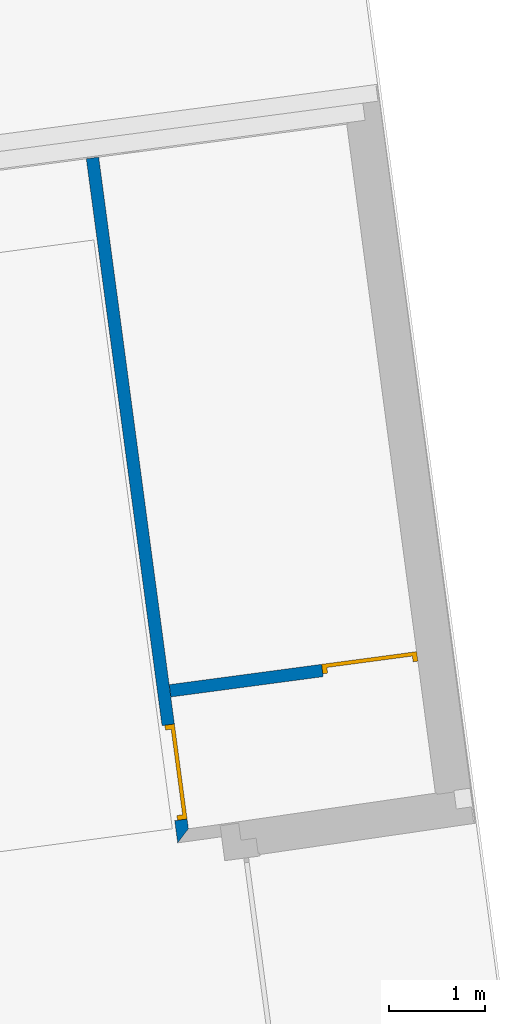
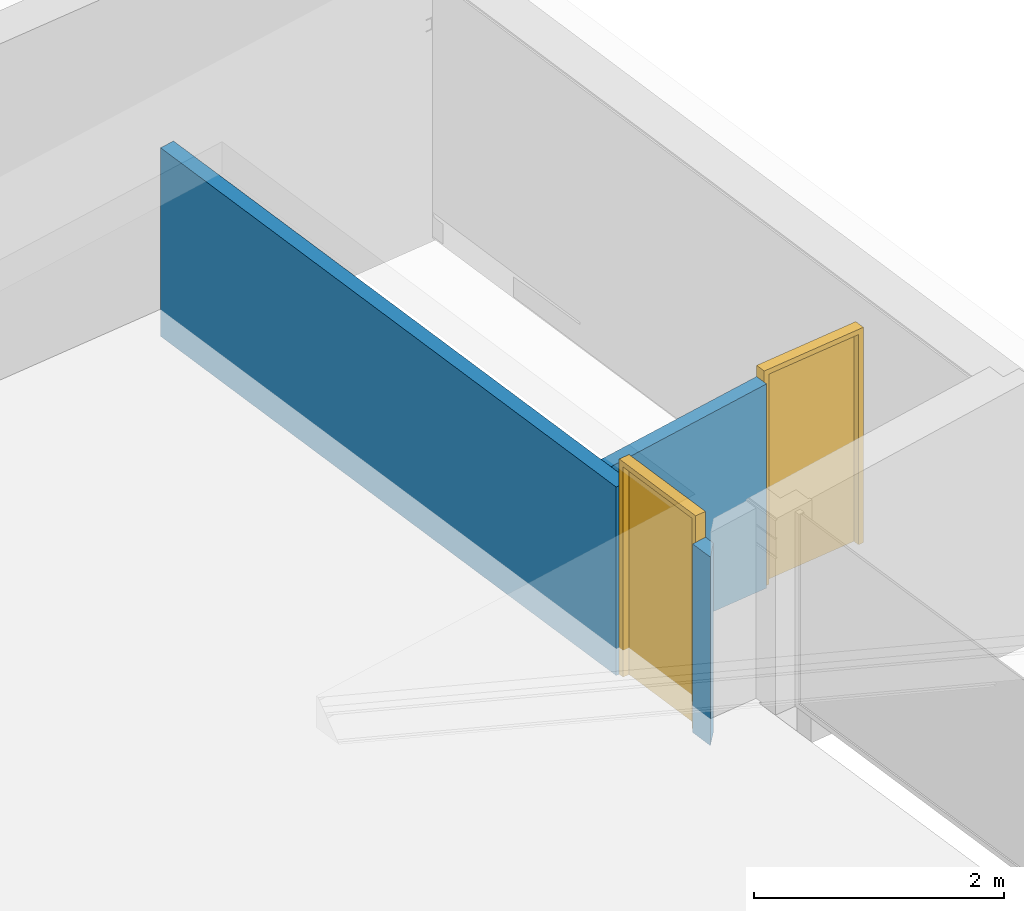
# One storey, part 3 of 7: 2 doors, 2 walls, 2 openings.
"""IFC2X3 building model written with IfcOpenShell, lengths in metres."""

from ifc_helpers import new_model, entity, si_unit, converted_unit, money_unit, direction, frame, origin_with_axes, origin_2d_with_axis, place, context, subcontext, project, spatial, polyline, rectangle, outline, extrude, clip, halfspace, bounded_halfspace, faceted_brep, source, transform, mapped, material, material_list, layer, layer_set, layer_usage, type_object, element, fill, save


model = new_model("IFC2X3")

# Units and contexts
model_context = context("Model", 3, precision=1e-05, world=origin_with_axes(), true_north=direction((0.0, 1.0)))
body_context = subcontext(model_context, "Body", "Model", "MODEL_VIEW")
ifc_project = project(units=[si_unit("LENGTHUNIT", "METRE"), si_unit("AREAUNIT", "SQUARE_METRE"), si_unit("VOLUMEUNIT", "CUBIC_METRE"), converted_unit("PLANEANGLEUNIT", "DEGREE", entity("IfcPlaneAngleMeasure", 0.0174532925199), si_unit("PLANEANGLEUNIT", "RADIAN"), dimensions=[0, 0, 0, 0, 0, 0, 0]), si_unit("SOLIDANGLEUNIT", "STERADIAN"), money_unit("EUR"), converted_unit("TIMEUNIT", "Year", entity("IfcTimeMeasure", 31556926.0), si_unit("TIMEUNIT", "SECOND"), dimensions=[0, 0, 0, 0, 0, 0, 0]), si_unit("MASSUNIT", "GRAM"), si_unit("THERMODYNAMICTEMPERATUREUNIT", "DEGREE_CELSIUS"), si_unit("LUMINOUSINTENSITYUNIT", "LUMEN")], contexts=[model_context])

# Site, building, storey
site_placement = place(None, origin_with_axes())
site = spatial("IfcSite", under=ifc_project, at=site_placement, Name="Undefined", CompositionType="ELEMENT")
building_placement = place(site_placement, origin_with_axes())
building = spatial("IfcBuilding", under=site, at=building_placement, Name="Undefined", CompositionType="ELEMENT")
storey_placement = place(building_placement, frame((0.0, 0.0, 17.4), z_axis=(0.0, 0.0, 1.0), x_axis=(1.0, 0.0, 0.0)))
storey = spatial("IfcBuildingStorey", under=building, at=storey_placement, Name="Toiture", CompositionType="ELEMENT", Elevation=17.4)

# Wall, opening, door
ifc_material_1 = material(Name="Finition int - Enduit pl\x89tre")
ifc_layer_1 = layer(ifc_material_1, 0.015, ventilated="UNKNOWN")
ifc_material_2 = material(Name="Struct. - Parpaing b\x8eton")
ifc_layer_2 = layer(ifc_material_2, 0.1, ventilated="UNKNOWN")
ifc_layer_3 = layer(ifc_material_1, 0.015, ventilated="UNKNOWN")
ifc_layer_set = layer_set([ifc_layer_1, ifc_layer_2, ifc_layer_3], Name="0.0-Cloison: parpaing + pl\x89tre 2 faces copie")
ifc_layer_usage_1 = layer_usage(ifc_layer_set, "AXIS2", "POSITIVE", 0.0)
wall_type = type_object("IfcWallType", Name="0.0-Cloison: parpaing + pl\x89tre 2 faces copie 130", PredefinedType="NOTDEFINED")
wall_1_placement = place(storey_placement, frame((65.3602740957, 20.1378812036, -0.24), z_axis=(0.0, 0.0, 1.0), x_axis=(-0.132386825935, 0.991198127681, 0.0)))
wall_1 = element("IfcWallStandardCase", 1, at=wall_1_placement, inside=storey, type_object=wall_type, material=ifc_layer_usage_1, Name="Wall_Int_02", context=body_context, shape_type="Clipping", body=[
    clip(extrude(outline(polyline([(0.0, 0.0), (7.06627215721, 0.0), (7.06635857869, 0.13), (-0.130612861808, 0.13), (0.0, 0.0)])), origin_with_axes(), (0.0, 0.0, 1.0), 4.19), bounded_halfspace(frame((2.18266984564e-05, 0.160608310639, 1.83576140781), z_axis=(-1.18444810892e-05, -0.0871557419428, -0.996194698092), x_axis=(0.0, 0.996194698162, -0.0871557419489)), True, origin_with_axes(), polyline([(-19.9910626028, -0.01), (1102.63225916, -0.01), (1102.63227827, 0.14), (-19.9910435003, 0.14), (-19.9910626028, -0.01)]))),
])
opening_1_placement = place(wall_1_placement, frame((0.602721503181, 0.0, 0.0), z_axis=(0.0, 0.0, 1.0), x_axis=(1.0, 0.0, 0.0)))
opening_1 = element("IfcOpeningElement", 2, at=opening_1_placement, cuts=wall_1, Name="DOOR_1000", context=body_context, shape_type="SweptSolid", body=[
    extrude(rectangle(XDim=1.0, YDim=2.1, at=origin_2d_with_axis()), frame((0.0, -0.13, 1.05), z_axis=(0.0, 1.0, 0.0), x_axis=(1.0, 0.0, 0.0)), (0.0, 0.0, 1.0), 0.13),
    extrude(rectangle(XDim=1.0, YDim=2.1, at=origin_2d_with_axis()), frame((0.0, 0.13, 1.05), z_axis=(0.0, -1.0, 0.0), x_axis=(1.0, 0.0, 0.0)), (0.0, 0.0, 1.0), 0.13),
])
ifc_material_3 = material(Name="Background Fill-International")
ifc_material_4 = material(Name="Air Space")
ifc_material_list = material_list([ifc_material_3, ifc_material_4])
door_style_1 = type_object("IfcDoorStyle", Name="IFC Porte - Simple battant", ConstructionType="NOTDEFINED", OperationType="SINGLE_SWING_RIGHT", ParameterTakesPrecedence=True, Sizeable=False)
shared_shape = source(origin_with_axes(), body_context, "Body", "Brep", [
    faceted_brep([(-0.5, 0.0, 0.0), (-0.45, 0.0, 0.0), (-0.45, -0.1, 0.0), (-0.5, -0.1, 0.0), (-0.5, 0.0, 2.1), (0.5, 0.0, 2.1), (0.5, 0.0, 0.0), (0.45, 0.0, 0.0), (0.45, 0.0, 2.05), (-0.45, 0.0, 2.05), (-0.45, -0.1, 2.05), (0.45, -0.1, 2.05), (0.45, -0.1, 0.0), (0.5, -0.1, 0.0), (0.5, -0.1, 2.1), (-0.5, -0.1, 2.1)], [[[0, 1, 2, 3]], [[0, 4, 5, 6, 7, 8, 9, 1]], [[1, 9, 10, 2]], [[3, 2, 10, 11, 12, 13, 14, 15]], [[4, 0, 3, 15]], [[5, 4, 15, 14]], [[6, 5, 14, 13]], [[7, 6, 13, 12]], [[8, 7, 12, 11]], [[9, 8, 11, 10]]]),
    faceted_brep([(0.45, 0.0, 0.0), (0.45, 0.0, 2.05), (0.45, -0.04, 2.05), (0.45, -0.04, 0.0), (-0.45, 0.0, 0.0), (-0.45, 0.0, 2.05), (-0.45, -0.04, 2.05), (-0.45, -0.04, 0.0)], [[[0, 1, 2, 3]], [[0, 4, 5, 1]], [[1, 5, 6, 2]], [[3, 2, 6, 7]], [[4, 0, 3, 7]], [[5, 4, 7, 6]]]),
])
door_1_placement = place(opening_1_placement, frame((0.5, 0.0, 0.0), z_axis=(0.0, 0.0, 1.0), x_axis=(-1.0, 0.0, 0.0)))
door_1 = element("IfcDoor", 3, at=door_1_placement, inside=storey, type_object=door_style_1, material=ifc_material_list, Name="DOOR_1000", ObjectType="DOOR", OverallHeight=2.1, OverallWidth=1.0, context=body_context, shape_type="MappedRepresentation", body=[
    mapped(shared_shape, transform((0.5, 0.0, 0.0))),
])
fill(opening_1, door_1)

ifc_layer_usage_2 = layer_usage(ifc_layer_set, "AXIS2", "POSITIVE", 0.0)
wall_2_placement = place(storey_placement, frame((65.1775889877, 21.512211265, -0.285), z_axis=(0.0, 0.0, 1.0), x_axis=(0.99121486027, 0.132261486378, 0.0)))
wall_2 = element("IfcWallStandardCase", 4, at=wall_2_placement, inside=storey, type_object=wall_type, material=ifc_layer_usage_2, Name="Wall_Int_02", context=body_context, shape_type="Clipping", body=[
    clip(extrude(outline(polyline([(0.0, 0.0), (2.60283034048, 0.0), (2.60283034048, 0.13), (0.0, 0.13), (0.0, 0.0)])), origin_with_axes(), (0.0, 0.0, 1.0), 4.235), halfspace(frame((-0.160727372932, -0.000157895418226, 1.83712316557), z_axis=(0.0871557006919, 8.56200506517e-05, -0.996194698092), x_axis=(0.0, 0.999999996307, 8.59471050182e-05)), True)),
])
opening_2_placement = place(wall_2_placement, frame((2.10283034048, 0.0, 0.0), z_axis=(0.0, 0.0, 1.0), x_axis=(1.0, 0.0, 0.0)))
opening_2 = element("IfcOpeningElement", 5, at=opening_2_placement, cuts=wall_2, Name="DOOR_1000", context=body_context, shape_type="SweptSolid", body=[
    extrude(rectangle(XDim=1.0, YDim=2.1, at=origin_2d_with_axis()), frame((0.0, 0.26, 1.05), z_axis=(0.0, -1.0, 0.0), x_axis=(1.0, 0.0, 0.0)), (0.0, 0.0, 1.0), 0.13),
    extrude(rectangle(XDim=1.0, YDim=2.1, at=origin_2d_with_axis()), frame((0.0, 0.0, 1.05), z_axis=(0.0, 1.0, 0.0), x_axis=(1.0, 0.0, 0.0)), (0.0, 0.0, 1.0), 0.13),
])
door_style_2 = type_object("IfcDoorStyle", Name="IFC Porte - Simple battant", ConstructionType="NOTDEFINED", OperationType="SINGLE_SWING_RIGHT", ParameterTakesPrecedence=True, Sizeable=False)
door_2_placement = place(opening_2_placement, frame((-0.5, 0.0, 0.0), z_axis=(0.0, 0.0, 1.0), x_axis=(1.0, 0.0, 0.0)))
door_2 = element("IfcDoor", 6, at=door_2_placement, inside=storey, type_object=door_style_2, material=ifc_material_list, Name="DOOR_1000", ObjectType="DOOR", OverallHeight=2.1, OverallWidth=1.0, context=body_context, shape_type="MappedRepresentation", body=[
    mapped(shared_shape, transform((0.5, 0.13, 0.0))),
])
fill(opening_2, door_2)

save(model, "model.ifc")
